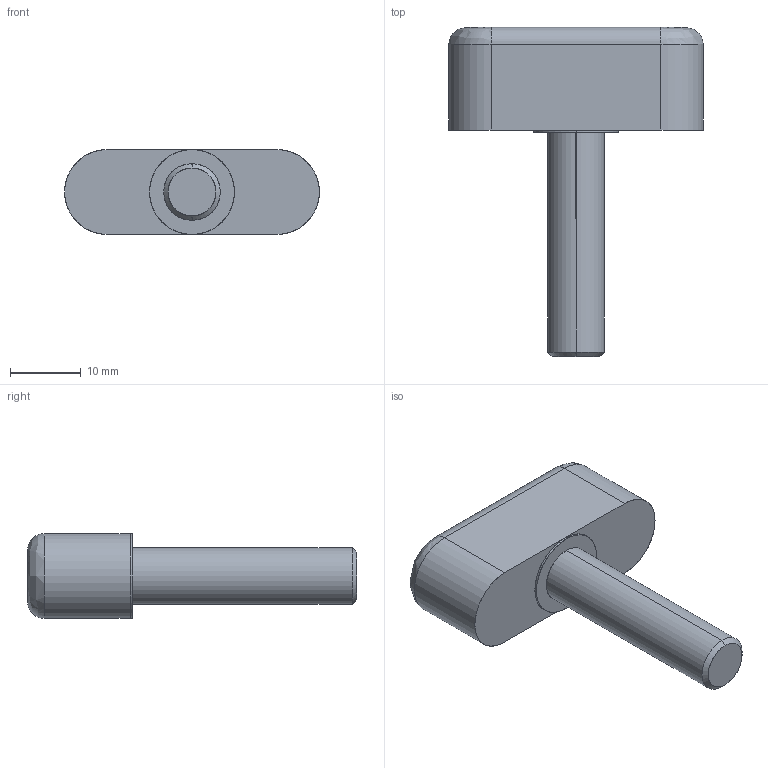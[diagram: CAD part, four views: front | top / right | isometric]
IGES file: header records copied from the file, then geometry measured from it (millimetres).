
Start section: SolidWorks IGES file using analytic representation for surfaces
Global section: file name: C:\Documents and Settings\IanO.IANOHOME\My Documents\Wix and Auto CAD Work\CAD Models\Parametric Models\Wix Models\3738\3738_IGES\3738.W088.igs; native system: SolidWorks 2009; preprocessor: SolidWorks 2009; author: IanO; date: 091209.215823; units: millimetre
Bounding box: 36 x 46.5 x 12 mm (x, y, z)
Surface area: 2752.4 mm2 (no closed solid volume)
Topology: 0 solids, 0 shells, 19 faces, 256 edges, 256 vertices
Faces by surface type: revolution 10, bspline 9
